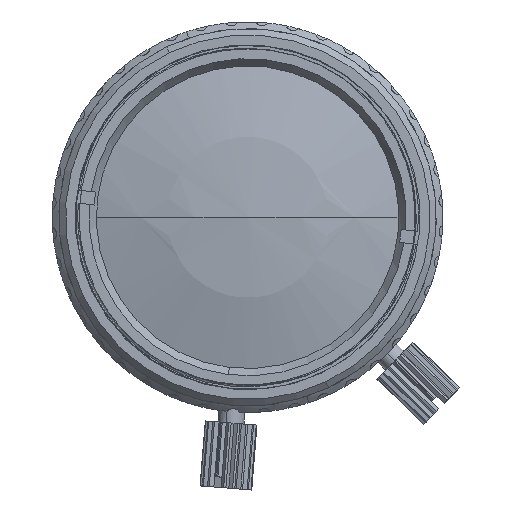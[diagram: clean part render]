
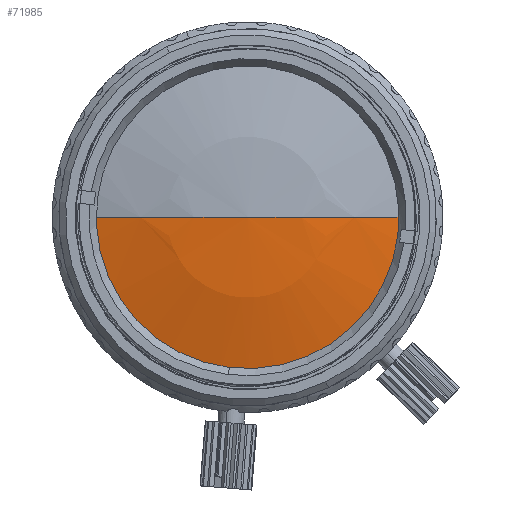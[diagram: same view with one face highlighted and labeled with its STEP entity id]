
A CAD part, left-side view. The second image highlights one B-rep face of the part: STEP entity #71985.
In plain terms, the highlighted spherical face has radius 45.061 mm.
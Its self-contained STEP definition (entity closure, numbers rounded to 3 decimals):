
#3615 = VERTEX_POINT ( 'NONE', #29475 ) ;
#7115 = VERTEX_POINT ( 'NONE', #8324 ) ;
#7343 = DIRECTION ( 'NONE',  ( 0., 1., 0. ) ) ;
#7790 = ORIENTED_EDGE ( 'NONE', *, *, #18034, .T. ) ;
#8324 = CARTESIAN_POINT ( 'NONE',  ( 1.697, 0., -12.25 ) ) ;
#9548 = DIRECTION ( 'NONE',  ( -1., 0., 0. ) ) ;
#12302 = AXIS2_PLACEMENT_3D ( 'NONE', #46223, #78745, #7343 ) ;
#18034 = EDGE_CURVE ( 'NONE', #50682, #3615, #40377, .T. ) ;
#18447 = ORIENTED_EDGE ( 'NONE', *, *, #57712, .T. ) ;
#20875 = CARTESIAN_POINT ( 'NONE',  ( 1.697, -12.25, 0. ) ) ;
#21568 = DIRECTION ( 'NONE',  ( 0., 0., 1. ) ) ;
#28977 = AXIS2_PLACEMENT_3D ( 'NONE', #79268, #9548, #41245 ) ;
#29475 = CARTESIAN_POINT ( 'NONE',  ( 1.697, 12.25, 0. ) ) ;
#33189 = DIRECTION ( 'NONE',  ( 0., 0., -1. ) ) ;
#40298 = FACE_OUTER_BOUND ( 'NONE', #68315, .T. ) ;
#40377 = CIRCLE ( 'NONE', #75457, 45.061 ) ;
#40563 = AXIS2_PLACEMENT_3D ( 'NONE', #80702, #42268, #21568 ) ;
#41245 = DIRECTION ( 'NONE',  ( 0., 0., 1. ) ) ;
#42268 = DIRECTION ( 'NONE',  ( -1., 0., 0. ) ) ;
#46223 = CARTESIAN_POINT ( 'NONE',  ( 45.061, 0., 0. ) ) ;
#50682 = VERTEX_POINT ( 'NONE', #20875 ) ;
#57712 = EDGE_CURVE ( 'NONE', #3615, #7115, #64066, .T. ) ;
#58479 = SPHERICAL_SURFACE ( 'NONE', #12302, 45.061 ) ;
#58938 = DIRECTION ( 'NONE',  ( 0., 1., 0. ) ) ;
#64066 = CIRCLE ( 'NONE', #28977, 12.25 ) ;
#68315 = EDGE_LOOP ( 'NONE', ( #18447, #83268, #7790 ) ) ;
#69992 = EDGE_CURVE ( 'NONE', #7115, #50682, #82316, .T. ) ;
#71985 = ADVANCED_FACE ( 'NONE', ( #40298 ), #58479, .T. ) ;
#72432 = CARTESIAN_POINT ( 'NONE',  ( 45.061, 0., 0. ) ) ;
#75457 = AXIS2_PLACEMENT_3D ( 'NONE', #72432, #33189, #58938 ) ;
#78745 = DIRECTION ( 'NONE',  ( 1., 0., 0. ) ) ;
#79268 = CARTESIAN_POINT ( 'NONE',  ( 1.697, 0., 0. ) ) ;
#80702 = CARTESIAN_POINT ( 'NONE',  ( 1.697, 0., 0. ) ) ;
#82316 = CIRCLE ( 'NONE', #40563, 12.25 ) ;
#83268 = ORIENTED_EDGE ( 'NONE', *, *, #69992, .T. ) ;
